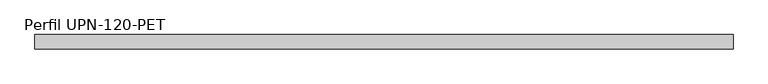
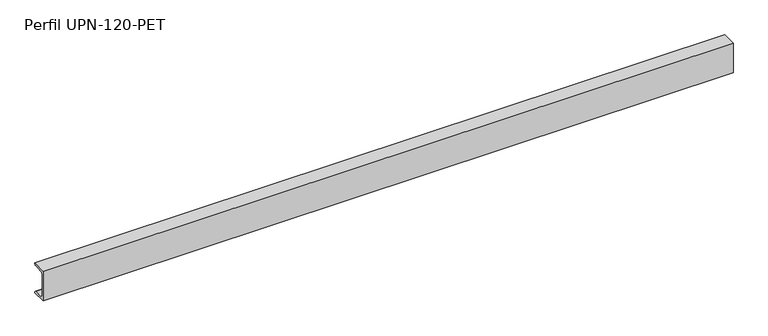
"""IFC4 building model written with IfcOpenShell, lengths in millimetres: beam geometry, ARES-I-AC-UPN-Perfil acero-PET : Perfil UPN-120-PET."""

from ifc_helpers import new_model, si_unit, point, frame, frame_2d, origin, place, context, project, spatial, polyline, circle_curve, trimmed, segment, composite_curve, outline, extrude, source, transform, mapped, element, save


def perfil_upn_120_pet_56031ed0(model_context):
    return source(origin(), model_context, "Body", "SweptSolid", [
        extrude(outline(composite_curve([segment(polyline([(-16.0, 60.0), (39.0, 60.0), (39.0, 57.354377)]), True, "CONTINUOUS"), segment(trimmed(circle_curve(frame_2d((34.5, 57.354377)), 4.5), [point((39.0, 57.354377))], [point((34.8588535, 52.8687083))], False, "CARTESIAN"), True, "CONTINUOUS"), segment(polyline([(34.8588535, 52.8687083), (-0.717707, 50.0225834)]), True, "CONTINUOUS"), segment(trimmed(circle_curve(frame_2d((0.0, 41.0512459)), 9.0), [point((-0.717707, 50.0225834))], [point((-9.0, 41.0512459))], True, "CARTESIAN"), True, "CONTINUOUS"), segment(polyline([(-9.0, 41.0512459), (-9.0, -41.0512459)]), True, "CONTINUOUS"), segment(trimmed(circle_curve(frame_2d((0.0, -41.0512459)), 9.0), [point((-9.0, -41.0512459))], [point((-0.717707, -50.0225834))], True, "CARTESIAN"), True, "CONTINUOUS"), segment(polyline([(-0.717707, -50.0225834), (34.8588535, -52.8687083)]), True, "CONTINUOUS"), segment(trimmed(circle_curve(frame_2d((34.5, -57.354377)), 4.5), [point((34.8588535, -52.8687083))], [point((39.0, -57.354377))], False, "CARTESIAN"), True, "CONTINUOUS"), segment(polyline([(39.0, -57.354377), (39.0, -60.0), (-16.0, -60.0), (-16.0, 60.0)]), True, "CONTINUOUS")], self_intersect=False)), frame((-1319.0, 0.0, 0.0), z_axis=(1.0, 0.0, 0.0), x_axis=(0.0, 1.0, 0.0)), (0.0, 0.0, 1.0), 2638.0),
    ])


if __name__ == "__main__":
    model = new_model("IFC4")
    model_context = context("Model", 3, world=origin())
    ifc_project = project(units=[si_unit("LENGTHUNIT", "METRE", prefix="MILLI")], contexts=[model_context])
    site = spatial("IfcSite", under=ifc_project)
    building = spatial("IfcBuilding", under=site)
    placement = place(None, origin())
    perfil_upn_120_pet_shape = perfil_upn_120_pet_56031ed0(model_context)
    element("IfcBeam", 1, ObjectType="ARES-I-AC-UPN-Perfil acero-PET : Perfil UPN-120-PET", at=placement, inside=building, context=model_context, shape_type="MappedRepresentation", body=[
        mapped(perfil_upn_120_pet_shape, transform((0.0, 0.0, 0.0), x_axis=(1.0, 0.0, 0.0), y_axis=(0.0, 1.0, 0.0), z_axis=(0.0, 0.0, 1.0))),
    ])
    save(model, "model.ifc")
